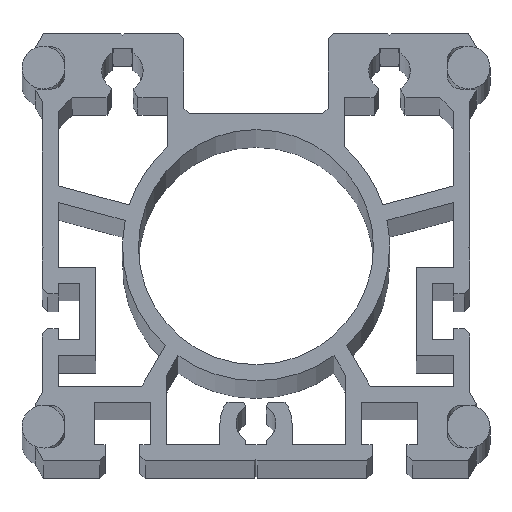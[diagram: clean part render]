
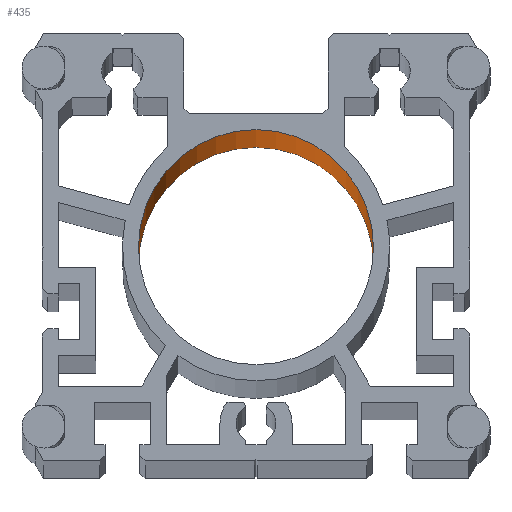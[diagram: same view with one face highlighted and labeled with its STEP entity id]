
A CAD part, top view. The second image highlights one B-rep face of the part: STEP entity #435.
In plain terms, the highlighted cylindrical face has radius 22 mm (diameter 44 mm), a partial arc.
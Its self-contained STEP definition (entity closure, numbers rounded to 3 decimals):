
#132 = EDGE_CURVE ( 'NONE', #1743, #1296, #3310, .T. ) ;
#433 = EDGE_CURVE ( 'NONE', #1315, #1326, #3940, .T. ) ;
#435 = ADVANCED_FACE ( 'NONE', ( #3935 ), #3934, .F. ) ;
#436 = EDGE_LOOP ( 'NONE', ( #437, #438, #439, #440 ) ) ;
#437 = ORIENTED_EDGE ( 'NONE', *, *, #1632, .F. ) ;
#438 = ORIENTED_EDGE ( 'NONE', *, *, #132, .F. ) ;
#439 = ORIENTED_EDGE ( 'NONE', *, *, #1304, .T. ) ;
#440 = ORIENTED_EDGE ( 'NONE', *, *, #433, .T. ) ;
#1296 = VERTEX_POINT ( 'NONE', #4624 ) ;
#1304 = EDGE_CURVE ( 'NONE', #1743, #1315, #4557, .T. ) ;
#1315 = VERTEX_POINT ( 'NONE', #4539 ) ;
#1326 = VERTEX_POINT ( 'NONE', #4982 ) ;
#1632 = EDGE_CURVE ( 'NONE', #1296, #1326, #5072, .T. ) ;
#1743 = VERTEX_POINT ( 'NONE', #5301 ) ;
#3306 = DIRECTION ( 'NONE',  ( 1., 0., 0. ) ) ;
#3307 = DIRECTION ( 'NONE',  ( 0., 0., 1. ) ) ;
#3308 = CARTESIAN_POINT ( 'NONE',  ( 0., 40., -949. ) ) ;
#3309 = AXIS2_PLACEMENT_3D ( 'NONE', #3308, #3307, #3306 ) ;
#3310 = CIRCLE ( 'NONE', #3309, 22. ) ;
#3930 = DIRECTION ( 'NONE',  ( 1., 0., 0. ) ) ;
#3931 = DIRECTION ( 'NONE',  ( 0., 0., 1. ) ) ;
#3932 = CARTESIAN_POINT ( 'NONE',  ( 0., 40., -949. ) ) ;
#3933 = AXIS2_PLACEMENT_3D ( 'NONE', #3932, #3931, #3930 ) ;
#3934 = CYLINDRICAL_SURFACE ( 'NONE', #3933, 22. ) ;
#3935 = FACE_OUTER_BOUND ( 'NONE', #436, .T. ) ;
#3936 = DIRECTION ( 'NONE',  ( 1., 0., 0. ) ) ;
#3937 = DIRECTION ( 'NONE',  ( 0., 0., 1. ) ) ;
#3938 = CARTESIAN_POINT ( 'NONE',  ( 0., 40., 949. ) ) ;
#3939 = AXIS2_PLACEMENT_3D ( 'NONE', #3938, #3937, #3936 ) ;
#3940 = CIRCLE ( 'NONE', #3939, 22. ) ;
#4539 = CARTESIAN_POINT ( 'NONE',  ( 22., 40., 949. ) ) ;
#4554 = DIRECTION ( 'NONE',  ( 0., 0., 1. ) ) ;
#4555 = VECTOR ( 'NONE', #4554, 1000. ) ;
#4556 = CARTESIAN_POINT ( 'NONE',  ( 22., 40., -949. ) ) ;
#4557 = LINE ( 'NONE', #4556, #4555 ) ;
#4624 = CARTESIAN_POINT ( 'NONE',  ( -22., 40., -949. ) ) ;
#4982 = CARTESIAN_POINT ( 'NONE',  ( -22., 40., 949. ) ) ;
#5069 = DIRECTION ( 'NONE',  ( 0., 0., 1. ) ) ;
#5070 = VECTOR ( 'NONE', #5069, 1000. ) ;
#5071 = CARTESIAN_POINT ( 'NONE',  ( -22., 40., -949. ) ) ;
#5072 = LINE ( 'NONE', #5071, #5070 ) ;
#5301 = CARTESIAN_POINT ( 'NONE',  ( 22., 40., -949. ) ) ;
